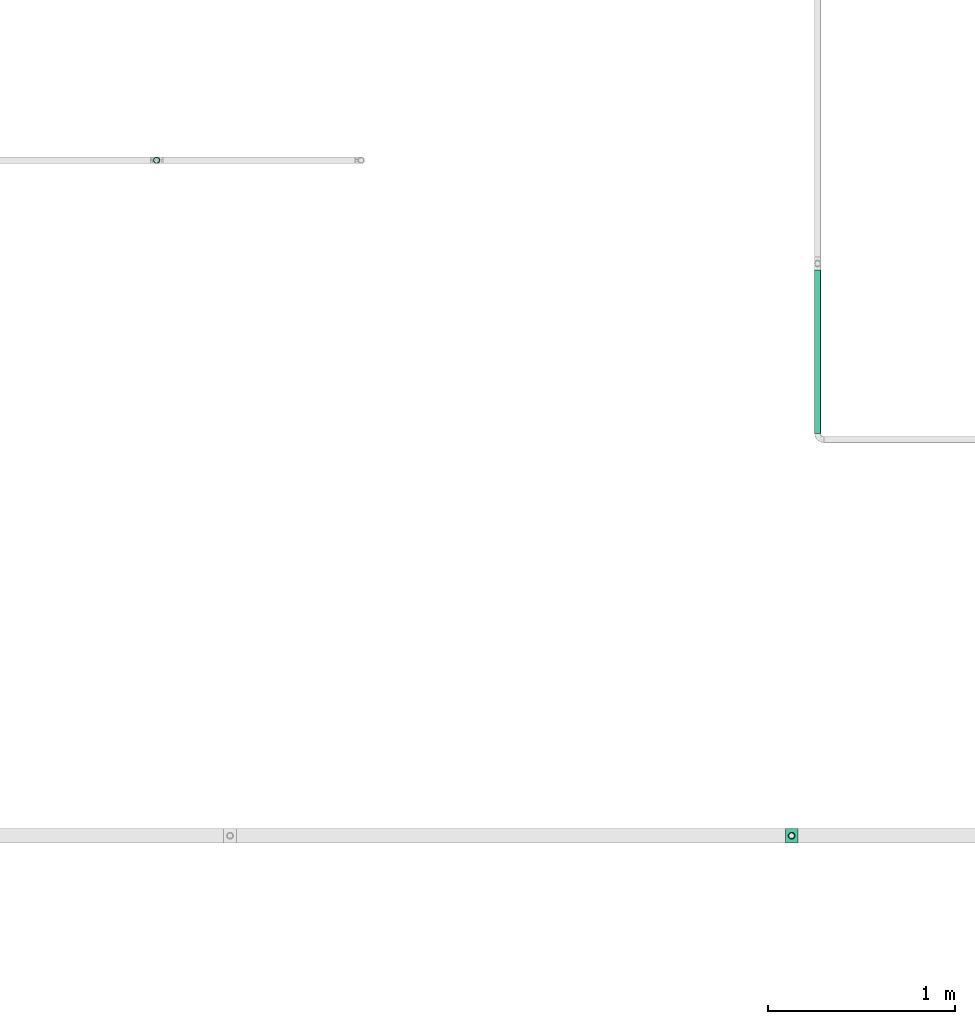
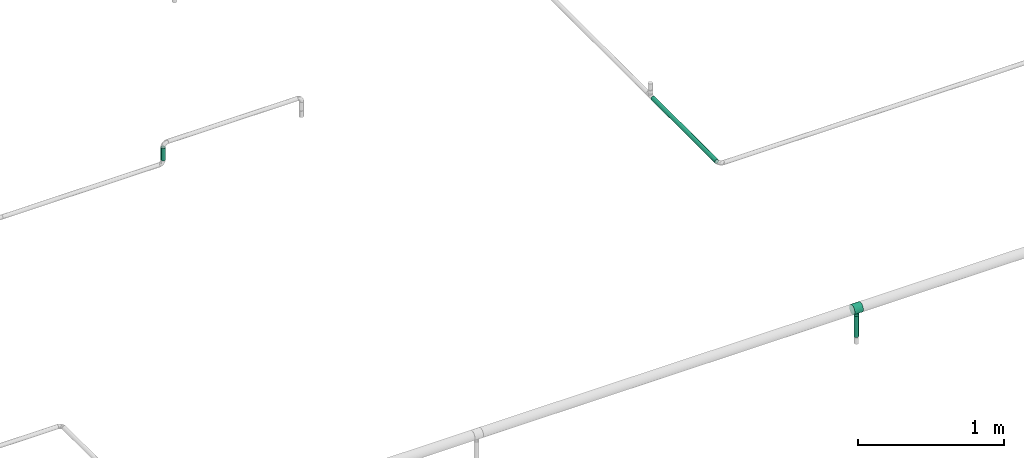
# One storey, part 10 of 45: 3 flow segments, 1 flow fitting.
"""IFC2X3 building model written with IfcOpenShell, lengths in millimetres."""

import ifcopenshell
import ifcopenshell.guid

model = None  # the IFC model being written
_history = None  # IfcOwnerHistory: only IFC2X3 demands one
_inside = {}  # id of a spatial element -> (the spatial element, [elements in it])
_under = {}  # id of a project, library or spatial element -> (it, [spatial elements below it])
_declared = {}  # id of a project -> (the project, [libraries it declares])
_typed = {}  # id of a type object -> (the type object, [elements of that type])
_made_of = {}  # id of a material, layer set ... -> (it, [elements and type objects made of it])


def new_model(schema):
    """Start an empty IFC model of exactly this schema.

    Asked for "IFC4X3", IfcOpenShell would pick the latest addendum, in which some entities
    have other attributes; the version numbers below select the first issue.
    IFC2X3 requires an IfcOwnerHistory on every rooted entity: one is made here for all.
    """
    global model, _history
    if schema == "IFC4X3":
        model = ifcopenshell.file(schema_version=(4, 3, 0, 0))
    else:
        model = ifcopenshell.file(schema=schema)
    _inside.clear()
    _under.clear()
    _declared.clear()
    _typed.clear()
    _made_of.clear()
    _history = None
    if model.schema == "IFC2X3":
        org = make("IfcOrganization", Name="unknown")
        user = make(
            "IfcPersonAndOrganization",
            ThePerson=make("IfcPerson", FamilyName="unknown"),
            TheOrganization=org,
        )
        app = make(
            "IfcApplication",
            ApplicationDeveloper=org,
            Version="unknown",
            ApplicationFullName="unknown",
            ApplicationIdentifier="unknown",
        )
        _history = make(
            "IfcOwnerHistory",
            OwningUser=user,
            OwningApplication=app,
            ChangeAction="ADDED",
            CreationDate=0,
        )
    return model


def make(cls, **values):
    """One entity of the class cls with the attributes given. An attribute that is None is left unset."""
    return model.create_entity(
        cls, **{name: value for name, value in values.items() if value is not None}
    )


def entity(cls, *values):
    """Any entity or typed value of the class cls, its attributes in the order of the schema. None: left unset."""
    e = model.create_entity(cls)
    for i, value in enumerate(values):
        if value is not None:
            e[i] = value
    return e


def rooted(cls, **values):
    """An entity with a GlobalId (a new one), such as an element, a storey or a relation."""
    return make(cls, GlobalId=ifcopenshell.guid.new(), OwnerHistory=_history, **values)


def si_unit(unit_type, name, prefix=None):
    """IfcSIUnit, for example si_unit("LENGTHUNIT", "METRE", prefix="MILLI")."""
    return make("IfcSIUnit", UnitType=unit_type, Prefix=prefix, Name=name)


def converted_unit(unit_type, name, factor, base, dimensions=None, offset=None):
    """IfcConversionBasedUnit, such as the inch: factor (a typed value) times the base unit."""
    return make(
        "IfcConversionBasedUnit"
        if offset is None
        else "IfcConversionBasedUnitWithOffset",
        ConversionOffset=offset,
        Dimensions=None
        if dimensions is None
        else entity("IfcDimensionalExponents", *dimensions),
        UnitType=unit_type,
        Name=name,
        ConversionFactor=make(
            "IfcMeasureWithUnit", ValueComponent=factor, UnitComponent=base
        ),
    )


def derived_unit(unit_type, elements):
    """IfcDerivedUnit: a product of units, each with its exponent."""
    return make(
        "IfcDerivedUnit",
        Elements=[
            make("IfcDerivedUnitElement", Unit=unit, Exponent=power)
            for unit, power in elements
        ],
        UnitType=unit_type,
    )


def assignment(units):
    """IfcUnitAssignment: the units of a project."""
    return None if units is None else make("IfcUnitAssignment", Units=units)


def point(xyz):
    """IfcCartesianPoint."""
    return None if xyz is None else make("IfcCartesianPoint", Coordinates=xyz)


def direction(xyz):
    """IfcDirection."""
    return None if xyz is None else make("IfcDirection", DirectionRatios=xyz)


def frame(location, z_axis=None, x_axis=None):
    """IfcAxis2Placement3D, a coordinate frame: its origin and axes. An axis left out is left unset."""
    return make(
        "IfcAxis2Placement3D",
        Location=point(location),
        Axis=direction(z_axis),
        RefDirection=direction(x_axis),
    )


def frame_2d(location, x_axis=None):
    """IfcAxis2Placement2D, a coordinate frame in the plane: its origin and x axis."""
    return make(
        "IfcAxis2Placement2D", Location=point(location), RefDirection=direction(x_axis)
    )


def origin_with_axes():
    """The frame at (0, 0, 0) with the z axis (0, 0, 1) and the x axis (1, 0, 0) written out."""
    return frame((0.0, 0.0, 0.0), z_axis=(0.0, 0.0, 1.0), x_axis=(1.0, 0.0, 0.0))


def origin_2d_with_axis():
    """The frame at (0, 0) in the plane with the x axis (1, 0) written out."""
    return frame_2d((0.0, 0.0), x_axis=(1.0, 0.0))


def place(relative_to, where):
    """IfcLocalPlacement: puts the frame where relative to a parent placement (None: the world)."""
    return make(
        "IfcLocalPlacement", PlacementRelTo=relative_to, RelativePlacement=where
    )


def context(
    kind, dimensions, precision=None, world=None, true_north=None, identifier=None
):
    """IfcGeometricRepresentationContext, for example the 3D "Model" context."""
    return make(
        "IfcGeometricRepresentationContext",
        ContextIdentifier=identifier,
        ContextType=kind,
        CoordinateSpaceDimension=dimensions,
        Precision=precision,
        WorldCoordinateSystem=world,
        TrueNorth=true_north,
    )


def subcontext(parent, identifier, kind, view, scale=None):
    """IfcGeometricRepresentationSubContext, for example "Body" below "Model"."""
    return make(
        "IfcGeometricRepresentationSubContext",
        ContextIdentifier=identifier,
        ContextType=kind,
        ParentContext=parent,
        TargetScale=scale,
        TargetView=view,
    )


def project(units=None, contexts=None):
    """IfcProject with its units and contexts."""
    return rooted(
        "IfcProject",
        Name="project",
        RepresentationContexts=contexts,
        UnitsInContext=assignment(units),
    )


def spatial(cls, under=None, at=None, **own):
    """A site, building, storey or space (cls), placed at a placement, below another one or the project."""
    s = rooted(cls, ObjectPlacement=at, **own)
    if under is not None:
        _under.setdefault(under.id(), (under, []))[1].append(s)
    return s


def profile(cls, at=None, kind="AREA", **sizes):
    """A parametric profile (cls). Its sizes go by their IFC names, for example OverallWidth=200.0."""
    return make(cls, ProfileType=kind, Position=at, **sizes)


def hollow_circle(**sizes):
    """IfcCircleHollowProfileDef."""
    return profile("IfcCircleHollowProfileDef", **sizes)


def extrude(swept, where, along, depth):
    """IfcExtrudedAreaSolid: the profile swept, set in the frame where, extruded along a direction by depth."""
    return make(
        "IfcExtrudedAreaSolid",
        SweptArea=swept,
        Position=where,
        ExtrudedDirection=direction(along),
        Depth=depth,
    )


def faces_of(points, faces, orient=None, outer=None):
    """IfcFace entities. A face is a list of loops; a loop is a list of indices into points, from 0.

    orient and outer hold one flag for each loop. By default every Orientation is true, the
    first loop of a face is its IfcFaceOuterBound and the others are IfcFaceBound.
    """
    made = []
    for i, loops in enumerate(faces):
        bounds = []
        for j, loop in enumerate(loops):
            is_outer = j == 0 if outer is None else outer[i][j]
            bounds.append(
                make(
                    "IfcFaceOuterBound" if is_outer else "IfcFaceBound",
                    Bound=make("IfcPolyLoop", Polygon=[points[k] for k in loop]),
                    Orientation=True if orient is None else orient[i][j],
                )
            )
        made.append(make("IfcFace", Bounds=bounds))
    return made


def open_shell(faces, orient=None, outer=None):
    """The faces of one IfcOpenShell. surface_model builds it on its shared points."""
    return ("IfcOpenShell", faces, orient, outer)


def surface_model(cls, points, shells):
    """IfcFaceBasedSurfaceModel or IfcShellBasedSurfaceModel (cls): surfaces that need not close."""
    shared = [point(p) for p in points]
    made = [make(c, CfsFaces=faces_of(shared, fs, o, b)) for c, fs, o, b in shells]
    if cls == "IfcFaceBasedSurfaceModel":
        return make(cls, FbsmFaces=made)
    return make(cls, SbsmBoundary=made)


def shape(context_of_items, identifier, shape_type, items):
    """IfcShapeRepresentation: the items that make up one representation, for example the "Body"."""
    return make(
        "IfcShapeRepresentation",
        ContextOfItems=context_of_items,
        RepresentationIdentifier=identifier,
        RepresentationType=shape_type,
        Items=items,
    )


def source(mapping_origin, context_of_items, identifier, shape_type, items):
    """IfcRepresentationMap: a shape defined once, which mapped items show again and again."""
    return make(
        "IfcRepresentationMap",
        MappingOrigin=mapping_origin,
        MappedRepresentation=shape(context_of_items, identifier, shape_type, items),
    )


def transform(
    local_origin,
    x_axis=None,
    y_axis=None,
    z_axis=None,
    scale=None,
    scale2=None,
    scale3=None,
    uniform=True,
):
    """IfcCartesianTransformationOperator3D, or its non-uniform kind. x_axis, y_axis, z_axis: its Axis1, 2, 3."""
    if uniform:
        return make(
            "IfcCartesianTransformationOperator3D",
            Axis1=direction(x_axis),
            Axis2=direction(y_axis),
            LocalOrigin=point(local_origin),
            Scale=scale,
            Axis3=direction(z_axis),
        )
    return make(
        "IfcCartesianTransformationOperator3DnonUniform",
        Axis1=direction(x_axis),
        Axis2=direction(y_axis),
        LocalOrigin=point(local_origin),
        Scale=scale,
        Axis3=direction(z_axis),
        Scale2=scale2,
        Scale3=scale3,
    )


def mapped(mapping_source, mapping_target):
    """IfcMappedItem: shows the shape of a source again, moved by a transform."""
    return make(
        "IfcMappedItem", MappingSource=mapping_source, MappingTarget=mapping_target
    )


def made_of(thing, what):
    """Note that an element or type object is made of a material, layer set ...; save() writes the relation."""
    if what is not None:
        _made_of.setdefault(what.id(), (what, []))[1].append(thing)
    return thing


def type_object(cls, material=None, **own):
    """A type object (cls), such as IfcWallType, which elements share."""
    return made_of(rooted(cls, **own), material)


def element(
    cls,
    number,
    at=None,
    inside=None,
    cuts=None,
    type_object=None,
    material=None,
    context=None,
    identifier="Body",
    shape_type=None,
    held_by="IfcProductDefinitionShape",
    body=None,
    shapes=None,
    **own,
):
    """One element of the class cls, such as IfcWall. Its Tag is "e" and its number.

    at: its placement. inside: the storey or other place that contains it. cuts: it is an
    opening in that element (IfcRelVoidsElement). A single representation is given by context,
    identifier, shape_type and body (its items); several are given by shapes. held_by: the class
    of the entity that holds the representations. save() writes the other relations.
    """
    e = rooted(cls, Tag="e%d" % number, ObjectPlacement=at, **own)
    if body is not None:
        shapes = [shape(context, identifier, shape_type, body)]
    if shapes is not None:
        e.Representation = make(held_by, Representations=shapes)
    if inside is not None:
        _inside.setdefault(inside.id(), (inside, []))[1].append(e)
    if cuts is not None:
        rooted(
            "IfcRelVoidsElement", RelatingBuildingElement=cuts, RelatedOpeningElement=e
        )
    if type_object is not None:
        _typed.setdefault(type_object.id(), (type_object, []))[1].append(e)
    return made_of(e, material)


def aggregate(whole, parts):
    """IfcRelAggregates: a whole, such as a stair, and the parts it consists of."""
    return rooted("IfcRelAggregates", RelatingObject=whole, RelatedObjects=parts)


def save(model, path):
    """Write the relations noted so far, then the file.

    IfcRelAggregates (storeys below a building ...), IfcRelContainedInSpatialStructure (elements
    in a storey), IfcRelDefinesByType, IfcRelAssociatesMaterial and IfcRelDeclares: one each for
    every whole, place, type object, material and project.
    """
    for whole, parts in _under.values():
        aggregate(whole, parts)
    for where, things in _inside.values():
        rooted(
            "IfcRelContainedInSpatialStructure",
            RelatedElements=things,
            RelatingStructure=where,
        )
    for kind, things in _typed.values():
        rooted("IfcRelDefinesByType", RelatedObjects=things, RelatingType=kind)
    for what, things in _made_of.values():
        rooted("IfcRelAssociatesMaterial", RelatedObjects=things, RelatingMaterial=what)
    for by, libraries in _declared.values():
        rooted("IfcRelDeclares", RelatingContext=by, RelatedDefinitions=libraries)
    model.write(path)


model = new_model("IFC2X3")

# Units and contexts
model_context = context("Model", 3, precision=0.01, world=frame((0.0, 4.29681676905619e-09, 0.0)), true_north=direction((4.01073788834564e-13, 1.0)))
plan_context = context("Plan", 3, precision=0.01, world=frame((0.0, 4.29681676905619e-09, 0.0)), true_north=direction((4.01073788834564e-13, 1.0)))
body_context = subcontext(model_context, "Body", "Model", "MODEL_VIEW")
ifc_project = project(units=[converted_unit("PLANEANGLEUNIT", "DEGREE", entity("IfcPositiveLengthMeasure", 0.0174532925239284), si_unit("PLANEANGLEUNIT", "RADIAN"), dimensions=[0, 0, 0, 0, 0, 0, 0]), si_unit("AREAUNIT", "SQUARE_METRE"), si_unit("LENGTHUNIT", "METRE", prefix="MILLI"), si_unit("MASSUNIT", "GRAM", prefix="KILO"), si_unit("POWERUNIT", "WATT"), si_unit("PRESSUREUNIT", "PASCAL", prefix="KILO"), si_unit("FORCEUNIT", "NEWTON", prefix="KILO"), si_unit("ELECTRICVOLTAGEUNIT", "VOLT"), si_unit("ELECTRICCURRENTUNIT", "AMPERE"), si_unit("THERMODYNAMICTEMPERATUREUNIT", "DEGREE_CELSIUS"), si_unit("TIMEUNIT", "SECOND"), si_unit("VOLUMEUNIT", "CUBIC_METRE"), derived_unit("LINEARVELOCITYUNIT", [(si_unit("LENGTHUNIT", "METRE"), 1), (si_unit("TIMEUNIT", "SECOND"), -1)]), derived_unit("VOLUMETRICFLOWRATEUNIT", [(si_unit("VOLUMEUNIT", "CUBIC_METRE"), 1), (si_unit("TIMEUNIT", "SECOND"), -1)]), derived_unit("THERMALTRANSMITTANCEUNIT", [(si_unit("POWERUNIT", "WATT"), 1), (si_unit("THERMODYNAMICTEMPERATUREUNIT", "KELVIN"), -1), (si_unit("AREAUNIT", "SQUARE_METRE"), -1)]), derived_unit("SOUNDPRESSUREUNIT", [(si_unit("PRESSUREUNIT", "PASCAL"), 1)])], contexts=[model_context, plan_context])

# Site, building, storey
site_placement = place(None, frame((0.0, -4.29681676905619e-09, 0.0), z_axis=(0.0, 0.0, 1.0), x_axis=(1.0, 0.0, 0.0)))
site = spatial("IfcSite", under=ifc_project, at=site_placement, CompositionType="ELEMENT")
building_placement = place(site_placement, frame((0.0, 4.29681676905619e-09, 0.0), z_axis=(0.0, 0.0, 1.0), x_axis=(1.0, 0.0, 0.0)))
building = spatial("IfcBuilding", under=site, at=building_placement, Name="mc-building", CompositionType="ELEMENT")
storey_placement = place(building_placement, frame((0.0, 0.0, 210200.0), z_axis=(0.0, 0.0, 1.0), x_axis=(1.0, 0.0, 0.0)))
storey = spatial("IfcBuildingStorey", under=building, at=storey_placement, Name="Nivå F - 0,7 m", CompositionType="ELEMENT", Elevation=210200.0)

# Flow fitting
pipe_fitting_type = type_object("IfcPipeFittingType", Name="magi_pipe_fe_tee_centric_90_001", PredefinedType="JUNCTION")
shared_shape_1 = source(origin_with_axes(), body_context, "Body", "SurfaceModel", [
    surface_model("IfcShellBasedSurfaceModel", [(-33.8, 9.86101, -36.80177), (-33.8, 0.0, -38.1), (-33.8, 36.80177, -9.86101), (-33.8, 19.05, -32.99557), (-33.8, 32.99557, -19.05), (-33.8, 26.94077, -26.94077), (-33.8, -38.1, 0.0), (-33.8, -19.05, -32.99557), (-33.8, -26.94077, -26.94077), (-33.8, -9.86101, -36.80177), (-33.8, -32.99557, -19.05), (-33.8, -36.80177, -9.86101), (-33.8, 38.1, 0.0), (-33.8, 32.99557, 19.05), (-33.8, 36.80177, 9.86101), (-33.8, -36.80177, 9.86101), (-33.8, 19.05, 32.99557), (-33.8, 26.94077, 26.94077), (-33.8, 9.86101, 36.80177), (-33.8, 0.0, 38.1), (-33.8, -26.94077, 26.94077), (-33.8, -32.99557, 19.05), (-33.8, -9.86101, 36.80177), (-33.8, -19.05, 32.99557), (33.8, 0.0, -38.1), (33.8, 9.86101, -36.80177), (33.8, 19.05, -32.99557), (33.8, 26.94077, -26.94077), (33.8, 32.99557, -19.05), (33.8, 36.80177, -9.86101), (33.8, -38.1, 0.0), (33.8, -9.86101, -36.80177), (33.8, -26.94077, -26.94077), (33.8, -19.05, -32.99557), (33.8, -32.99557, -19.05), (33.8, -36.80177, -9.86101), (33.8, 36.80177, 9.86101), (33.8, 32.99557, 19.05), (33.8, 19.05, 32.99557), (33.8, 0.0, 38.1), (33.8, 26.94077, 26.94077), (33.8, 9.86101, 36.80177), (33.8, -26.94077, 26.94077), (33.8, -32.99557, 19.05), (33.8, -36.80177, 9.86101), (33.8, -19.05, 32.99557), (33.8, -9.86101, 36.80177), (33.8, 38.1, 0.0), (33.8, -37.45089, 4.9305), (15.86072, -37.65053, 5.83504), (16.9, -38.1, 0.0), (12.92726, -36.51183, 10.88559), (2.96752, -34.27545, 16.63742), (33.8, -34.89867, 14.4555), (8.48894, -35.18611, 14.61328), (-8.4904, -35.18646, 14.61243), (-33.8, -34.89867, 14.4555), (-15.8612, -37.65073, 5.83372), (-33.8, -37.45089, 4.9305), (-16.9, -38.1, 0.0), (-12.9317, -36.51341, 10.88031), (-2.97221, -34.27585, 16.63658), (-33.8, -37.45089, -4.9305), (-15.8612, -37.65073, -5.83372), (15.86072, -37.65053, -5.83504), (33.8, -37.45089, -4.9305), (-12.9317, -36.51341, -10.88031), (-33.8, -34.89867, -14.4555), (-8.4904, -35.18646, -14.61243), (2.96752, -34.27545, -16.63742), (8.48894, -35.18611, -14.61328), (33.8, -34.89867, -14.4555), (12.92726, -36.51183, -10.88559), (-2.97221, -34.27585, -16.63658), (4.37404, -57.15, -16.32415), (-16.9, -57.15, 0.0), (0.0, -57.15, -16.9), (14.63583, -57.15, -8.45), (8.45, -57.15, -14.63583), (16.32415, -57.15, -4.37404), (11.9501, -57.15, -11.9501), (-11.9501, -57.15, -11.9501), (-8.45, -57.15, -14.63583), (-4.37404, -57.15, -16.32415), (-14.63583, -57.15, -8.45), (-16.32415, -57.15, -4.37404), (16.9, -57.15, 0.0), (8.45, -57.15, 14.63583), (16.32415, -57.15, 4.37404), (14.63583, -57.15, 8.45), (-8.45, -57.15, 14.63583), (11.9501, -57.15, 11.9501), (4.37404, -57.15, 16.32415), (-16.32415, -57.15, 4.37404), (-11.9501, -57.15, 11.9501), (-14.63583, -57.15, 8.45), (0.0, -57.15, 16.9), (-4.37404, -57.15, 16.32415), (-16.3806, -37.87537, 2.91686), (-5.7313, -34.73116, 15.62451), (-0.00235, -34.27565, 16.637), (5.72823, -34.73078, 15.62535), (16.38036, -37.87526, 2.91752), (16.38036, -37.87526, -2.91752), (5.72823, -34.73078, -15.62535), (-0.00235, -34.27565, -16.637), (-5.7313, -34.73116, -15.62451), (-16.3806, -37.87537, -2.91686)], [open_shell([[[0, 1, 2]], [[3, 0, 2]], [[2, 4, 5]], [[3, 2, 5]], [[6, 2, 1]], [[7, 8, 9]], [[8, 1, 9]], [[10, 11, 8]], [[6, 8, 11]], [[8, 6, 1]], [[6, 12, 2]], [[13, 14, 12]], [[15, 13, 6]], [[16, 13, 15]], [[17, 13, 16]], [[18, 16, 19]], [[20, 19, 21]], [[16, 15, 21]], [[22, 19, 23]], [[20, 23, 19]], [[21, 19, 16]], [[12, 6, 13]], [[24, 25, 26]], [[24, 26, 27]], [[27, 28, 29]], [[24, 27, 30]], [[30, 27, 29]], [[31, 32, 33]], [[31, 24, 32]], [[34, 30, 35]], [[30, 34, 32]], [[24, 30, 32]], [[29, 36, 30]], [[36, 37, 30]], [[30, 37, 38]], [[38, 39, 30]], [[38, 37, 40]], [[39, 38, 41]], [[30, 42, 43]], [[44, 30, 43]], [[45, 39, 46]], [[45, 42, 30]], [[30, 39, 45]], [[36, 29, 47]], [[48, 44, 49]], [[50, 30, 48]], [[44, 51, 49]], [[43, 42, 52]], [[50, 48, 49]], [[44, 53, 51]], [[52, 54, 43]], [[42, 20, 52]], [[54, 53, 43]], [[55, 21, 56]], [[57, 58, 59]], [[6, 59, 58]], [[57, 60, 15]], [[55, 61, 21]], [[51, 53, 54]], [[15, 60, 56]], [[21, 61, 20]], [[56, 60, 55]], [[61, 52, 20]], [[57, 15, 58]], [[42, 23, 20]], [[19, 46, 39]], [[22, 45, 46]], [[18, 39, 41]], [[37, 36, 14]], [[17, 38, 40]], [[13, 40, 37]], [[41, 38, 16]], [[12, 36, 47]], [[23, 45, 22]], [[22, 46, 19]], [[18, 19, 39]], [[41, 16, 18]], [[16, 38, 17]], [[13, 17, 40]], [[14, 13, 37]], [[36, 12, 14]], [[45, 23, 42]], [[12, 47, 29]], [[29, 28, 2]], [[59, 62, 63]], [[27, 4, 28]], [[9, 24, 31]], [[0, 26, 25]], [[64, 35, 65]], [[24, 1, 25]], [[31, 33, 7]], [[27, 26, 5]], [[66, 67, 68]], [[4, 2, 28]], [[12, 29, 2]], [[27, 5, 4]], [[3, 26, 0]], [[26, 3, 5]], [[0, 25, 1]], [[9, 1, 24]], [[31, 7, 9]], [[33, 8, 7]], [[32, 34, 69]], [[70, 34, 71]], [[70, 69, 34]], [[35, 72, 71]], [[32, 69, 8]], [[30, 50, 65]], [[64, 72, 35]], [[64, 65, 50]], [[72, 70, 71]], [[73, 68, 10]], [[10, 8, 73]], [[68, 67, 10]], [[73, 8, 69]], [[66, 63, 11]], [[63, 62, 11]], [[62, 59, 6]], [[11, 67, 66]], [[32, 8, 33]], [[74, 75, 76]], [[77, 74, 78]], [[77, 79, 74]], [[77, 78, 80]], [[75, 74, 79]], [[76, 81, 82]], [[82, 83, 76]], [[84, 75, 85]], [[81, 76, 84]], [[75, 84, 76]], [[79, 86, 75]], [[87, 86, 88]], [[87, 88, 89]], [[90, 75, 87]], [[87, 89, 91]], [[90, 87, 92]], [[93, 94, 95]], [[94, 93, 90]], [[90, 96, 97]], [[93, 75, 90]], [[92, 96, 90]], [[87, 75, 86]], [[93, 98, 75]], [[60, 95, 94]], [[93, 95, 57]], [[94, 90, 55]], [[98, 59, 75]], [[57, 95, 60]], [[97, 61, 99]], [[55, 60, 94]], [[96, 52, 100]], [[87, 101, 92]], [[99, 90, 97]], [[99, 55, 90]], [[93, 57, 98]], [[92, 52, 96]], [[49, 89, 88]], [[102, 86, 50]], [[102, 49, 88]], [[91, 89, 51]], [[96, 61, 97]], [[101, 52, 92]], [[87, 54, 101]], [[87, 91, 54]], [[54, 91, 51]], [[51, 89, 49]], [[86, 102, 88]], [[100, 61, 96]], [[79, 103, 86]], [[72, 77, 80]], [[79, 77, 64]], [[80, 78, 70]], [[103, 50, 86]], [[64, 77, 72]], [[74, 69, 104]], [[70, 72, 80]], [[76, 73, 105]], [[82, 106, 83]], [[107, 75, 59]], [[104, 78, 74]], [[104, 70, 78]], [[68, 82, 81]], [[79, 64, 103]], [[63, 84, 85]], [[107, 63, 85]], [[84, 66, 81]], [[76, 69, 74]], [[83, 106, 73]], [[73, 76, 83]], [[68, 106, 82]], [[68, 81, 66]], [[66, 84, 63]], [[75, 107, 85]], [[105, 69, 76]]])]),
])
flow_fitting_placement = place(storey_placement, frame((335518.61043, 460120.00018, 2938.0), z_axis=(0.0, 1.0, 0.0), x_axis=(-1.0, 0.0, 0.0)))
element("IfcFlowFitting", 1, at=flow_fitting_placement, inside=storey, type_object=pipe_fitting_type, Name="magi_pipe_fe_tee_centric_90_001", context=body_context, shape_type="MappedRepresentation", body=[
    mapped(shared_shape_1, transform((0.0, 0.0, 0.0), scale=1.0)),
])

# Flow segments
pipe_segment_type = type_object("IfcPipeSegmentType", Name="Stålrør normaltykke", PredefinedType="RIGIDSEGMENT")
shared_shape_2 = source(origin_with_axes(), body_context, "Body", "SweptSolid", [
    extrude(hollow_circle(Radius=16.9, WallThickness=2.0, at=origin_2d_with_axis()), frame((0.0, 0.0, 0.0), z_axis=(1.0, 0.0, 0.0), x_axis=(0.0, 1.0, 0.0)), (0.0, 0.0, 1.0), 176.9),
])
flow_segment_1_placement = place(storey_placement, frame((335518.61043, 460120.00018, 2880.85000000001), z_axis=(1.0, 0.0, 0.0), x_axis=(0.0, 0.0, -1.0)))
element("IfcFlowSegment", 2, at=flow_segment_1_placement, inside=storey, type_object=pipe_segment_type, Name="Stålrør normaltykke", context=body_context, shape_type="MappedRepresentation", body=[
    mapped(shared_shape_2, transform((0.0, 0.0, 0.0), scale=1.0)),
])
shared_shape_3 = source(origin_with_axes(), body_context, "Body", "SweptSolid", [
    extrude(hollow_circle(Radius=16.9, WallThickness=2.0, at=origin_2d_with_axis()), frame((0.0, 0.0, 0.0), z_axis=(1.0, 0.0, 0.0), x_axis=(0.0, 1.0, 0.0)), (0.0, 0.0, 1.0), 104.1),
])
flow_segment_2_placement = place(storey_placement, frame((332126.35522, 463728.25463, 3178.79999999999), z_axis=(0.0, -1.0, 0.0), x_axis=(0.0, 0.0, 1.0)))
element("IfcFlowSegment", 3, at=flow_segment_2_placement, inside=storey, type_object=pipe_segment_type, Name="Stålrør normaltykke", context=body_context, shape_type="MappedRepresentation", body=[
    mapped(shared_shape_3, transform((0.0, 0.0, 0.0), scale=1.0)),
])
shared_shape_4 = source(origin_with_axes(), body_context, "Body", "SweptSolid", [
    extrude(hollow_circle(Radius=16.9, WallThickness=2.0, at=origin_2d_with_axis()), frame((0.0, 0.0, 0.0), z_axis=(1.0, 0.0, 0.0), x_axis=(0.0, 1.0, 0.0)), (0.0, 0.0, 1.0), 873.4),
])
flow_segment_3_placement = place(storey_placement, frame((335657.5, 463143.00156, 2810.44542), z_axis=(0.0, 2.5999999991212e-05, 0.999999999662), x_axis=(0.0, -0.999999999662, 2.5999999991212e-05)))
element("IfcFlowSegment", 4, at=flow_segment_3_placement, inside=storey, type_object=pipe_segment_type, Name="Stålrør normaltykke", context=body_context, shape_type="MappedRepresentation", body=[
    mapped(shared_shape_4, transform((0.0, 0.0, 0.0), scale=1.0)),
])

save(model, "model.ifc")
